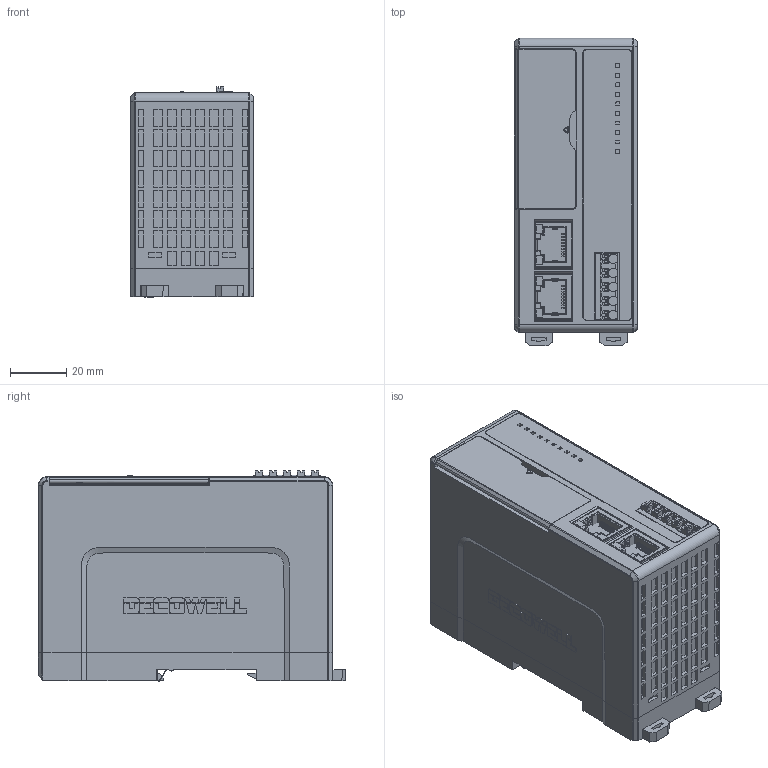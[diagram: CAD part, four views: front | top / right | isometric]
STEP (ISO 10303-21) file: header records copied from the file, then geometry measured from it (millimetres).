
FILE_DESCRIPTION(/* description */ (''),/* implementation_level */ '2;1');
FILE_NAME(/* name */ 'LS系列-主站.stp',/* time_stamp */ '2023-10-07T17:38:42+08:00',/* author */ (''),/* organization */ (''),/* preprocessor_version */ 'ST-DEVELOPER v16',/* originating_system */ 'SIEMENS PLM Software NX 10.0',/* authorisation */ '');
FILE_SCHEMA (('AP203_CONFIGURATION_CONTROLLED_3D_DESIGN_OF_MECHANICAL_PARTS_AND_ASSEMBLIES_MIM_LF { 1 0 10303 403 2 1 2}'));
Products named in the file (1): chao8068F8924yb4
Bounding box: 44 x 109.7 x 74.92 mm (x, y, z)
Volume: 320684.2 mm3; surface area: 70670.5 mm2
Topology: 18 solids, 20 shells, 5473 faces, 15099 edges, 9996 vertices
Faces by surface type: plane 4543, cylinder 723, extrusion 79, torus 56, cone 46, bspline 20, sphere 6
Full cylindrical faces by diameter (mm): 0.5 x2, 0.8 x2, 3.8 x1
Entity records: 176071 total; most frequent: CARTESIAN_POINT 35572, ORIENTED_EDGE 30168, DIRECTION 27085, EDGE_CURVE 15084, VECTOR 13053, LINE 12974, VERTEX_POINT 9993, AXIS2_PLACEMENT_3D 7016
